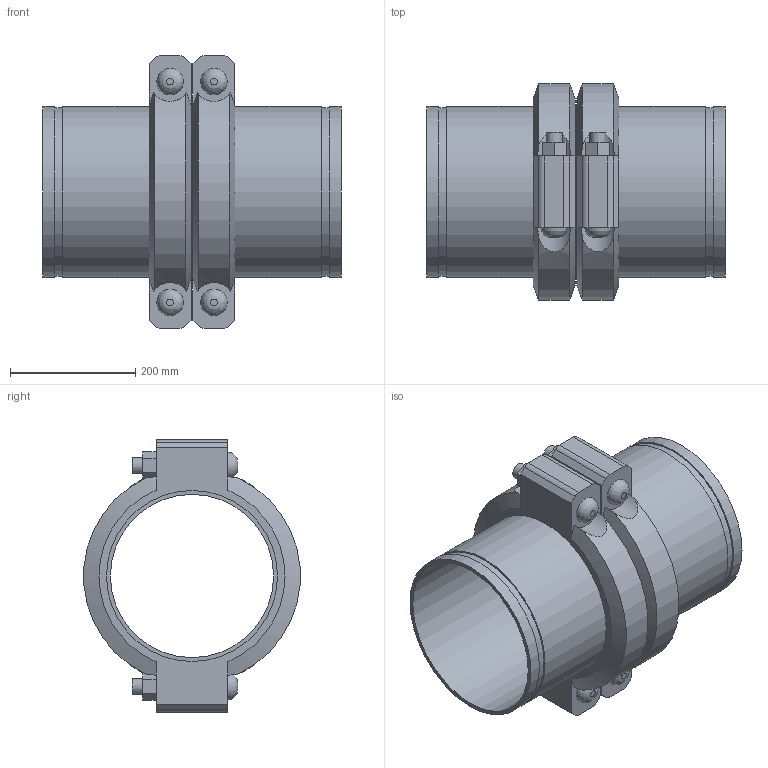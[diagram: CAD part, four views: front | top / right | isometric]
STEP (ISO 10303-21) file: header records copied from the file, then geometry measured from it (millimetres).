
FILE_DESCRIPTION(/* description */ ('VIC SS EXPANSION JOINT 2 COUPLINGS COMPRESSED STYLE 155P (OGS) (POTABLE WATER) ','CAx-IF Rec.Pracs.---Representation and Presentation of Product Manufacturing Information (PMI)---4.0---2014-10-13'),/* implementation_level */ '2;1');
FILE_NAME(/* name */ 'C:\Users\kkamble\AppData\Roaming\Autodesk\ApplicationPlugins\Victaulic.Temp\A462\Victaulic_SS_Expansion Joint_Compressed_2 Couplings_Style 155P (OGS)-Potable Water_2 Coup_Comp_10 (250).stp',/* time_stamp */ '2021-07-16T17:09:49+06:00',/* author */ ('kkamble'),/* organization */ ('Victaulic'),/* preprocessor_version */ 'ST-DEVELOPER v17.2',/* originating_system */ 'Autodesk Inventor 2019',/* authorisation */ '');
FILE_SCHEMA (('AP242_MANAGED_MODEL_BASED_3D_ENGINEERING_MIM_LF { 1 0 10303 442 1 1 4 }'));
Length unit declared in the file: inch
Products named in the file (4): 155P-10.0; Nipple-10.0; Nipple-10.0_1; 077-10.0
Assembly tree (5 placements, depth 2):
  155P-10.0
    Nipple-10.0  x2
    Nipple-10.0_1
    077-10.0  x2
Bounding box: 476.25 x 344.9 x 435.1 mm (x, y, z)
Volume: 8222821.2 mm3; surface area: 1398796.1 mm2
Topology: 5 solids, 9 shells, 150 faces, 368 edges, 260 vertices
Faces by surface type: plane 86, cylinder 52, cone 8, bspline 4
Full cylindrical faces by diameter (mm): 25.4 x8, 27.432 x4, 260.35 x3, 268.275 x6, 273.05 x11
Entity records: 2913 total; most frequent: CARTESIAN_POINT 655, DIRECTION 447, ORIENTED_EDGE 398, EDGE_CURVE 199, AXIS2_PLACEMENT_3D 180, VERTEX_POINT 142, EDGE_LOOP 105, CIRCLE 92
